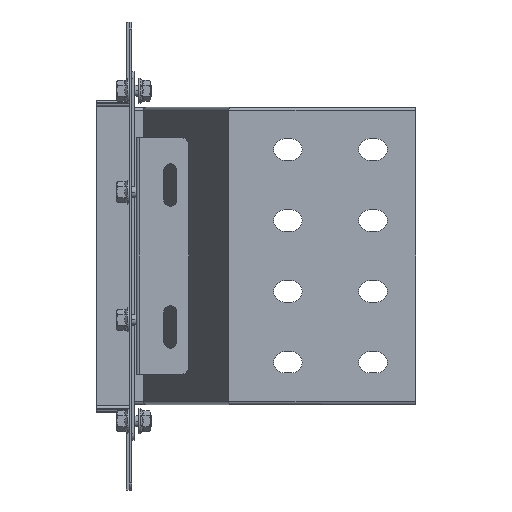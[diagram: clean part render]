
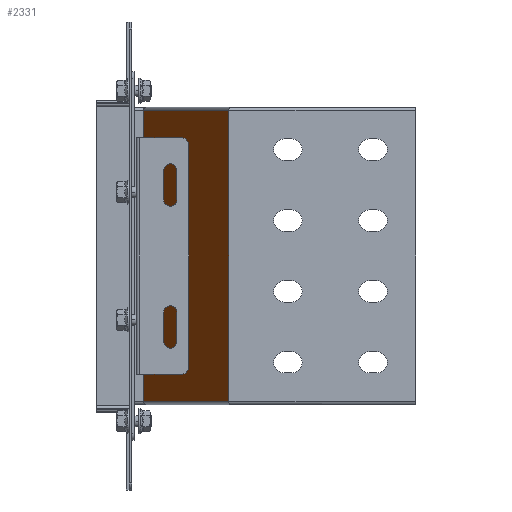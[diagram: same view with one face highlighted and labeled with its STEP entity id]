
A CAD part, front view. The second image highlights one B-rep face of the part: STEP entity #2331.
In plain terms, the highlighted planar face has unit normal (-0.92, -0.392, 0).
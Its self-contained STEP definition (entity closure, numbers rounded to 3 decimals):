
#2311=AXIS2_PLACEMENT_3D('Plane Axis2P3D',#2308,#2309,#2310) ;
#1811=CARTESIAN_POINT('Vertex',(68.248,-152.65,-102.35)) ;
#1825=CARTESIAN_POINT('Vertex',(68.248,-152.65,102.35)) ;
#1828=CARTESIAN_POINT('Line Origine',(68.248,-152.65,0.)) ;
#2274=CARTESIAN_POINT('Line Origine',(37.562,-80.583,-102.35)) ;
#2278=CARTESIAN_POINT('Vertex',(8.248,-11.74,-102.35)) ;
#2308=CARTESIAN_POINT('Axis2P3D Location',(68.934,-154.262,-102.35)) ;
#2313=CARTESIAN_POINT('Line Origine',(38.248,-82.195,102.35)) ;
#2317=CARTESIAN_POINT('Vertex',(8.248,-11.74,102.35)) ;
#2320=CARTESIAN_POINT('Line Origine',(8.248,-11.74,0.)) ;
#1829=DIRECTION('Vector Direction',(0.,0.,1.)) ;
#2275=DIRECTION('Vector Direction',(0.392,-0.92,0.)) ;
#2309=DIRECTION('Axis2P3D Direction',(-0.92,-0.392,0.)) ;
#2310=DIRECTION('Axis2P3D XDirection',(0.,0.,1.)) ;
#2314=DIRECTION('Vector Direction',(-0.392,0.92,0.)) ;
#2321=DIRECTION('Vector Direction',(0.,0.,1.)) ;
#1830=VECTOR('Line Direction',#1829,1.) ;
#2276=VECTOR('Line Direction',#2275,1.) ;
#2315=VECTOR('Line Direction',#2314,1.) ;
#2322=VECTOR('Line Direction',#2321,1.) ;
#2326=ORIENTED_EDGE('',*,*,#2319,.T.) ;
#2327=ORIENTED_EDGE('',*,*,#2324,.F.) ;
#2328=ORIENTED_EDGE('',*,*,#2280,.F.) ;
#2329=ORIENTED_EDGE('',*,*,#1832,.T.) ;
#2331=ADVANCED_FACE('N',(#2330),#2312,.T.) ;
#1832=EDGE_CURVE('',#1812,#1826,#1831,.T.) ;
#2280=EDGE_CURVE('',#1812,#2279,#2277,.F.) ;
#2319=EDGE_CURVE('',#1826,#2318,#2316,.T.) ;
#2324=EDGE_CURVE('',#2279,#2318,#2323,.T.) ;
#2325=EDGE_LOOP('',(#2326,#2327,#2328,#2329)) ;
#2330=FACE_OUTER_BOUND('',#2325,.T.) ;
#1831=LINE('Line',#1828,#1830) ;
#2277=LINE('Line',#2274,#2276) ;
#2316=LINE('Line',#2313,#2315) ;
#2323=LINE('Line',#2320,#2322) ;
#2312=PLANE('',#2311) ;
#1812=VERTEX_POINT('',#1811) ;
#1826=VERTEX_POINT('',#1825) ;
#2279=VERTEX_POINT('',#2278) ;
#2318=VERTEX_POINT('',#2317) ;
